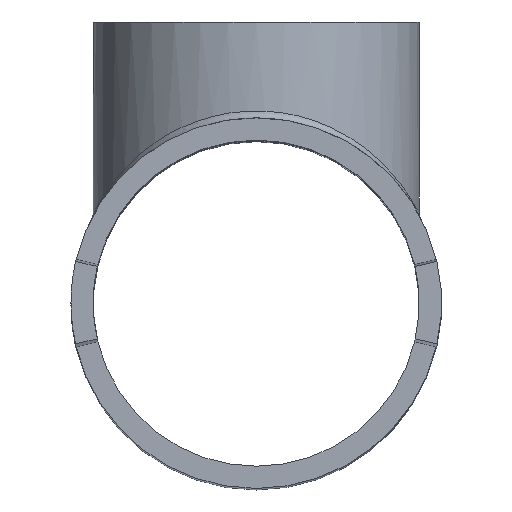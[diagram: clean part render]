
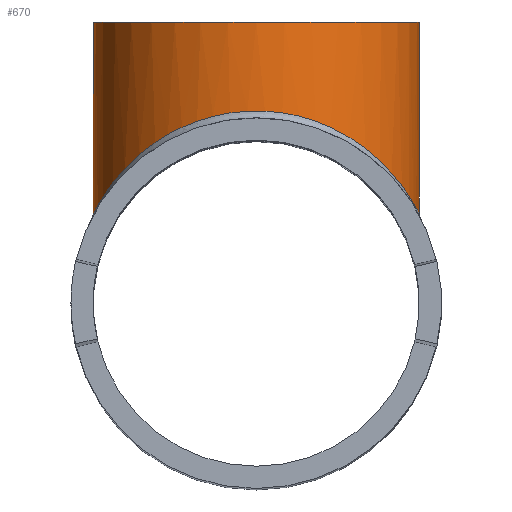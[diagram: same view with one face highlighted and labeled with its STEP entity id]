
A CAD part, top view. The second image highlights one B-rep face of the part: STEP entity #670.
In plain terms, the highlighted cylindrical face has radius 11 mm (diameter 22 mm), a full revolution.
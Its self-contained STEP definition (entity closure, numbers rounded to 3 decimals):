
#60=LINE('',#2176,#84);
#84=VECTOR('',#866,10.);
#106=CYLINDRICAL_SURFACE('',#739,11.);
#137=FACE_OUTER_BOUND('',#178,.T.);
#178=EDGE_LOOP('',(#608,#609,#610,#611,#612));
#213=CIRCLE('',#740,11.);
#239=B_SPLINE_CURVE_WITH_KNOTS('',3,(#1945,#1946,#1947,#1948,#1949,#1950,
#1951,#1952,#1953,#1954,#1955,#1956,#1957),.UNSPECIFIED.,.F.,.F.,(4,1,1,
1,1,1,1,1,1,1,4),(3.66,3.921,4.182,4.705,
5.054,5.228,5.751,6.274,6.797,
7.058,7.319),.UNSPECIFIED.);
#243=B_SPLINE_CURVE_WITH_KNOTS('',3,(#2160,#2161,#2162,#2163,#2164,#2165,
#2166,#2167,#2168,#2169,#2170,#2171,#2172),.UNSPECIFIED.,.F.,.F.,(4,1,1,
1,1,1,1,1,1,1,4),(3.66,3.921,4.182,4.705,
5.054,5.228,5.751,6.274,6.797,
7.058,7.319),.UNSPECIFIED.);
#295=VERTEX_POINT('',#1921);
#297=VERTEX_POINT('',#1943);
#318=VERTEX_POINT('',#2174);
#398=EDGE_CURVE('',#295,#297,#239,.T.);
#421=EDGE_CURVE('',#295,#297,#243,.T.);
#422=EDGE_CURVE('',#318,#318,#213,.F.);
#423=EDGE_CURVE('',#318,#297,#60,.T.);
#608=ORIENTED_EDGE('',*,*,#422,.T.);
#609=ORIENTED_EDGE('',*,*,#423,.T.);
#610=ORIENTED_EDGE('',*,*,#421,.F.);
#611=ORIENTED_EDGE('',*,*,#398,.T.);
#612=ORIENTED_EDGE('',*,*,#423,.F.);
#670=ADVANCED_FACE('',(#137),#106,.T.);
#739=AXIS2_PLACEMENT_3D('',#2173,#862,#863);
#740=AXIS2_PLACEMENT_3D('',#2175,#864,#865);
#862=DIRECTION('center_axis',(0.,1.,0.));
#863=DIRECTION('ref_axis',(1.,0.,0.));
#864=DIRECTION('center_axis',(0.,1.,0.));
#865=DIRECTION('ref_axis',(1.,0.,0.));
#866=DIRECTION('',(0.,-1.,0.));
#1921=CARTESIAN_POINT('',(11.,6.062,0.));
#1943=CARTESIAN_POINT('',(-11.,6.062,0.));
#1945=CARTESIAN_POINT('Ctrl Pts',(11.,6.062,0.));
#1946=CARTESIAN_POINT('Ctrl Pts',(11.,6.062,-0.893));
#1947=CARTESIAN_POINT('Ctrl Pts',(10.774,6.532,-2.652));
#1948=CARTESIAN_POINT('Ctrl Pts',(9.671,8.316,-5.611));
#1949=CARTESIAN_POINT('Ctrl Pts',(7.638,10.516,-8.246));
#1950=CARTESIAN_POINT('Ctrl Pts',(4.841,12.069,-9.988));
#1951=CARTESIAN_POINT('Ctrl Pts',(1.565,13.097,-11.104));
#1952=CARTESIAN_POINT('Ctrl Pts',(-2.823,13.074,-11.086));
#1953=CARTESIAN_POINT('Ctrl Pts',(-7.338,10.838,-8.636));
#1954=CARTESIAN_POINT('Ctrl Pts',(-9.667,8.322,-5.616));
#1955=CARTESIAN_POINT('Ctrl Pts',(-10.776,6.53,-2.65));
#1956=CARTESIAN_POINT('Ctrl Pts',(-11.,6.062,-0.893));
#1957=CARTESIAN_POINT('Ctrl Pts',(-11.,6.062,0.));
#2160=CARTESIAN_POINT('Ctrl Pts',(11.,6.062,0.));
#2161=CARTESIAN_POINT('Ctrl Pts',(11.,6.062,0.893));
#2162=CARTESIAN_POINT('Ctrl Pts',(10.774,6.532,2.652));
#2163=CARTESIAN_POINT('Ctrl Pts',(9.671,8.316,5.611));
#2164=CARTESIAN_POINT('Ctrl Pts',(7.638,10.516,8.246));
#2165=CARTESIAN_POINT('Ctrl Pts',(4.841,12.069,9.988));
#2166=CARTESIAN_POINT('Ctrl Pts',(1.565,13.097,11.104));
#2167=CARTESIAN_POINT('Ctrl Pts',(-2.823,13.074,11.086));
#2168=CARTESIAN_POINT('Ctrl Pts',(-7.338,10.838,8.636));
#2169=CARTESIAN_POINT('Ctrl Pts',(-9.667,8.322,5.616));
#2170=CARTESIAN_POINT('Ctrl Pts',(-10.776,6.53,2.65));
#2171=CARTESIAN_POINT('Ctrl Pts',(-11.,6.062,0.893));
#2172=CARTESIAN_POINT('Ctrl Pts',(-11.,6.062,0.));
#2173=CARTESIAN_POINT('Origin',(0.,0.,0.));
#2174=CARTESIAN_POINT('',(-11.,19.,0.));
#2175=CARTESIAN_POINT('Origin',(0.,19.,0.));
#2176=CARTESIAN_POINT('',(-11.,0.,0.));
